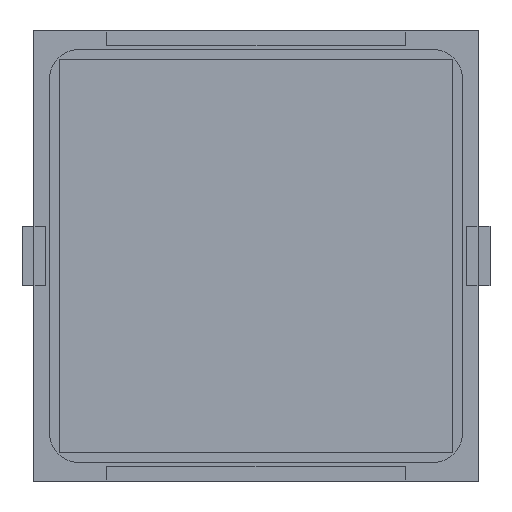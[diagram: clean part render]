
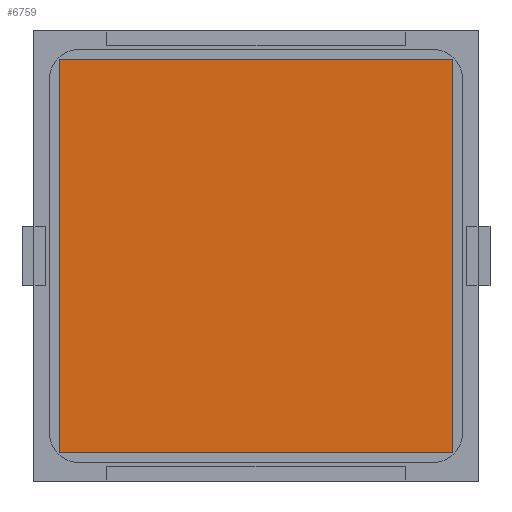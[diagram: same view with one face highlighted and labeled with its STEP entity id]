
A CAD part, front view. The second image highlights one B-rep face of the part: STEP entity #6759.
In plain terms, the highlighted planar face has unit normal (0, -1, 0).
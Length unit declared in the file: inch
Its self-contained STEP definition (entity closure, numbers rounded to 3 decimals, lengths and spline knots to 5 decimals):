
#29 = VERTEX_POINT ( 'NONE', #9764 ) ;
#538 = LINE ( 'NONE', #5565, #8205 ) ;
#666 = DIRECTION ( 'NONE',  ( 1., 0., 0. ) ) ;
#954 = VECTOR ( 'NONE', #5395, 39.37008 ) ;
#1081 = FACE_OUTER_BOUND ( 'NONE', #2287, .T. ) ;
#2140 = VERTEX_POINT ( 'NONE', #3347 ) ;
#2287 = EDGE_LOOP ( 'NONE', ( #3687, #4281, #8110, #6484 ) ) ;
#2464 = CARTESIAN_POINT ( 'NONE',  ( 0.64961, -0.005, -0.64961 ) ) ;
#2997 = CARTESIAN_POINT ( 'NONE',  ( -0.64961, -0.005, 0.64961 ) ) ;
#3086 = LINE ( 'NONE', #6414, #5484 ) ;
#3347 = CARTESIAN_POINT ( 'NONE',  ( -0.64961, -0.005, -0.64961 ) ) ;
#3682 = CARTESIAN_POINT ( 'NONE',  ( -0.64961, -0.005, -0.64961 ) ) ;
#3687 = ORIENTED_EDGE ( 'NONE', *, *, #5323, .F. ) ;
#4281 = ORIENTED_EDGE ( 'NONE', *, *, #5219, .F. ) ;
#4612 = DIRECTION ( 'NONE',  ( 0., 1., 0. ) ) ;
#4804 = CARTESIAN_POINT ( 'NONE',  ( -0.64961, -0.005, 0.64961 ) ) ;
#5219 = EDGE_CURVE ( 'NONE', #8752, #2140, #9596, .T. ) ;
#5323 = EDGE_CURVE ( 'NONE', #2140, #29, #3086, .T. ) ;
#5395 = DIRECTION ( 'NONE',  ( -1., 0., 0. ) ) ;
#5484 = VECTOR ( 'NONE', #5602, 39.37008 ) ;
#5528 = VECTOR ( 'NONE', #666, 39.37008 ) ;
#5565 = CARTESIAN_POINT ( 'NONE',  ( 0.64961, -0.005, -0.64961 ) ) ;
#5602 = DIRECTION ( 'NONE',  ( 0., 0., 1. ) ) ;
#6414 = CARTESIAN_POINT ( 'NONE',  ( -0.64961, -0.005, -0.64961 ) ) ;
#6484 = ORIENTED_EDGE ( 'NONE', *, *, #9661, .F. ) ;
#6759 = ADVANCED_FACE ( 'NONE', ( #1081 ), #6984, .F. ) ;
#6883 = AXIS2_PLACEMENT_3D ( 'NONE', #2997, #4612, #9770 ) ;
#6984 = PLANE ( 'NONE',  #6883 ) ;
#7200 = DIRECTION ( 'NONE',  ( 0., 0., -1. ) ) ;
#7621 = EDGE_CURVE ( 'NONE', #9285, #8752, #538, .T. ) ;
#8110 = ORIENTED_EDGE ( 'NONE', *, *, #7621, .F. ) ;
#8205 = VECTOR ( 'NONE', #7200, 39.37008 ) ;
#8453 = CARTESIAN_POINT ( 'NONE',  ( 0.64961, -0.005, 0.64961 ) ) ;
#8752 = VERTEX_POINT ( 'NONE', #2464 ) ;
#9008 = LINE ( 'NONE', #4804, #5528 ) ;
#9285 = VERTEX_POINT ( 'NONE', #8453 ) ;
#9596 = LINE ( 'NONE', #3682, #954 ) ;
#9661 = EDGE_CURVE ( 'NONE', #29, #9285, #9008, .T. ) ;
#9764 = CARTESIAN_POINT ( 'NONE',  ( -0.64961, -0.005, 0.64961 ) ) ;
#9770 = DIRECTION ( 'NONE',  ( 0., 0., 1. ) ) ;
